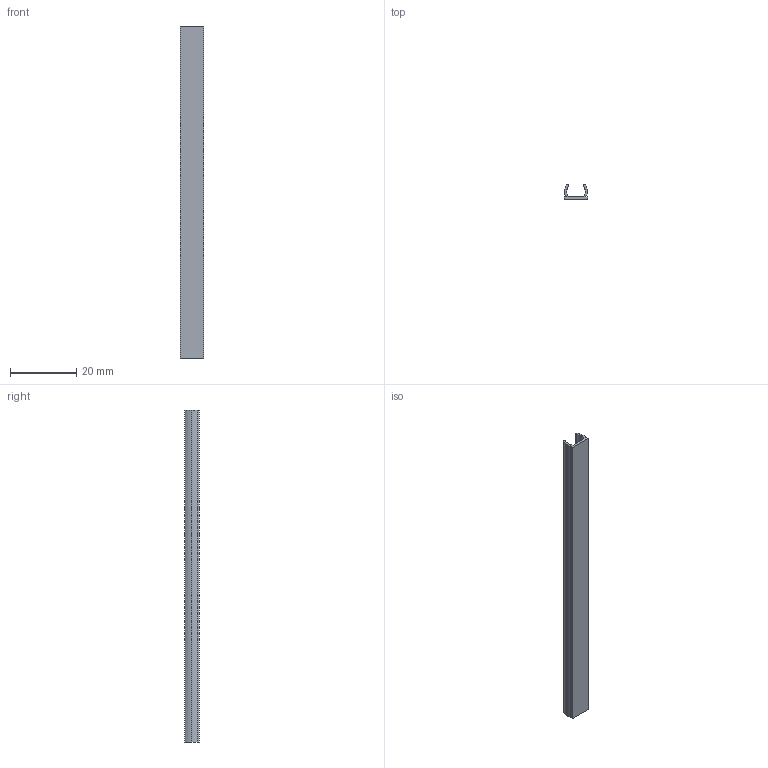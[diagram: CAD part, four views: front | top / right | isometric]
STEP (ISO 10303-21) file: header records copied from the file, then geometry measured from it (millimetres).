
FILE_DESCRIPTION (( 'STEP AP214' ), '1' );
FILE_NAME ('Slot Cover - 20 Series - Black - 1000mm.STEP', '2025-05-17T15:06:40', ( '' ), ( '' ), 'SwSTEP 2.0', 'SolidWorks 2024', '' );
FILE_SCHEMA (( 'AUTOMOTIVE_DESIGN' ));
Length unit declared in the file: millimetre
Products named in the file (1): Slot Cover - 20 Series - Black - 1000mm
Bounding box: 7 x 4.5 x 100 mm (x, y, z)
Volume: 969.3 mm3; surface area: 3106.6 mm2
Topology: 1 solids, 1 shells, 17 faces, 45 edges, 30 vertices
Faces by surface type: cylinder 9, plane 8
Entity records: 560 total; most frequent: DIRECTION 99, CARTESIAN_POINT 93, ORIENTED_EDGE 90, EDGE_CURVE 45, AXIS2_PLACEMENT_3D 36, VERTEX_POINT 30, LINE 27, VECTOR 27
